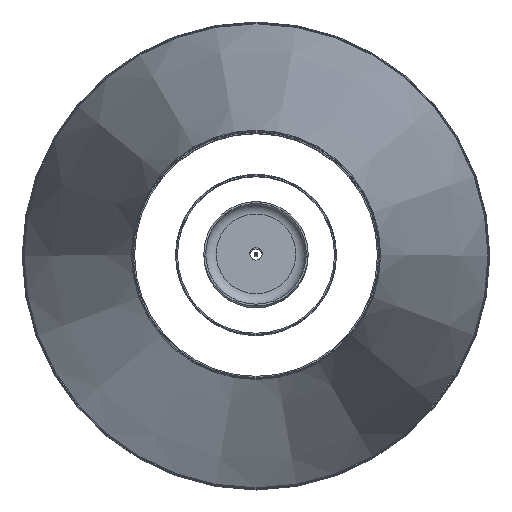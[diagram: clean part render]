
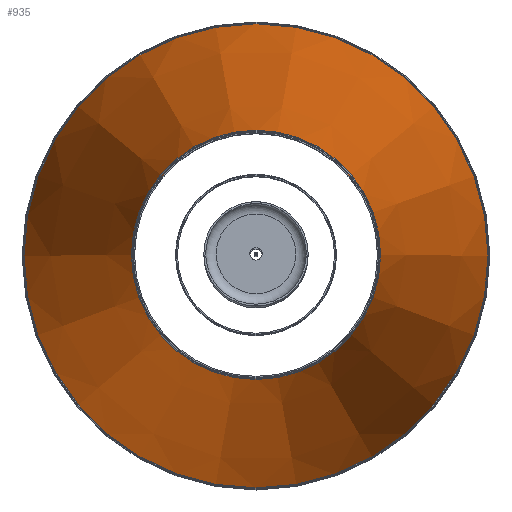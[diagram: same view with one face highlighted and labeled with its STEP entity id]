
A CAD part, top view. The second image highlights one B-rep face of the part: STEP entity #935.
In plain terms, the highlighted conical face has half-angle 11.31 degrees and reference radius 100 mm.
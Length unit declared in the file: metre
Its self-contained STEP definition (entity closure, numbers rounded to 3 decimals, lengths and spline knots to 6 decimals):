
#935 = ADVANCED_FACE( '', ( #2234, #2235 ), #2236, .T. );
#2234 = FACE_OUTER_BOUND( '', #3600, .T. );
#2235 = FACE_BOUND( '', #3601, .T. );
#2236 = CONICAL_SURFACE( '', #3602, 0.1, 0.197 );
#3600 = EDGE_LOOP( '', ( #5490 ) );
#3601 = EDGE_LOOP( '', ( #5491 ) );
#3602 = AXIS2_PLACEMENT_3D( '', #5492, #5493, #5494 );
#5490 = ORIENTED_EDGE( '', *, *, #6156, .F. );
#5491 = ORIENTED_EDGE( '', *, *, #6157, .T. );
#5492 = CARTESIAN_POINT( '', ( 0., 0., 0.225 ) );
#5493 = DIRECTION( '', ( 0., 0., -1. ) );
#5494 = DIRECTION( '', ( -1., 0., 0. ) );
#6156 = EDGE_CURVE( '', #7194, #7194, #7195, .T. );
#6157 = EDGE_CURVE( '', #7196, #7196, #7197, .T. );
#7194 = VERTEX_POINT( '', #47626 );
#7195 = CIRCLE( '', #47627, 0.19 );
#7196 = VERTEX_POINT( '', #47628 );
#7197 = CIRCLE( '', #47629, 0.1 );
#47626 = CARTESIAN_POINT( '', ( -0.19, 0., -0.225 ) );
#47627 = AXIS2_PLACEMENT_3D( '', #48004, #48005, #48006 );
#47628 = CARTESIAN_POINT( '', ( -0.1, 0., 0.225 ) );
#47629 = AXIS2_PLACEMENT_3D( '', #48007, #48008, #48009 );
#48004 = CARTESIAN_POINT( '', ( 0., 0., -0.225 ) );
#48005 = DIRECTION( '', ( 0., 0., -1. ) );
#48006 = DIRECTION( '', ( -1., 0., 0. ) );
#48007 = CARTESIAN_POINT( '', ( 0., 0., 0.225 ) );
#48008 = DIRECTION( '', ( 0., 0., -1. ) );
#48009 = DIRECTION( '', ( -1., 0., 0. ) );
